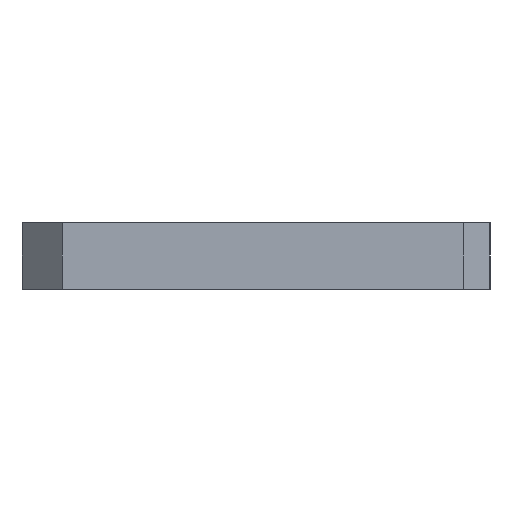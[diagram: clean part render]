
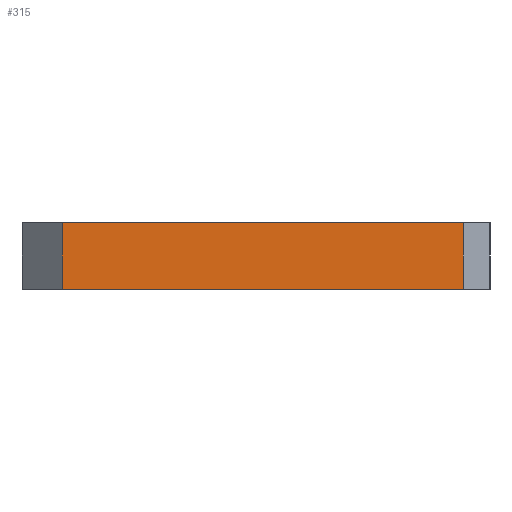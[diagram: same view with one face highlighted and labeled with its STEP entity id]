
A CAD part, left-side view. The second image highlights one B-rep face of the part: STEP entity #315.
In plain terms, the highlighted planar face has unit normal (-1, 0, 0).
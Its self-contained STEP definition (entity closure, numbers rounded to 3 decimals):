
#47=FACE_OUTER_BOUND('',#69,.T.);
#69=EDGE_LOOP('',(#237,#238,#239,#240));
#96=LINE('',#476,#126);
#97=LINE('',#491,#127);
#100=LINE('',#497,#130);
#101=LINE('',#498,#131);
#126=VECTOR('',#382,10.);
#127=VECTOR('',#397,10.);
#130=VECTOR('',#402,10.);
#131=VECTOR('',#403,10.);
#150=VERTEX_POINT('',#462);
#156=VERTEX_POINT('',#474);
#163=VERTEX_POINT('',#490);
#165=VERTEX_POINT('',#496);
#184=EDGE_CURVE('',#156,#150,#96,.T.);
#191=EDGE_CURVE('',#150,#163,#97,.T.);
#194=EDGE_CURVE('',#165,#156,#100,.T.);
#195=EDGE_CURVE('',#165,#163,#101,.T.);
#237=ORIENTED_EDGE('',*,*,#191,.F.);
#238=ORIENTED_EDGE('',*,*,#184,.F.);
#239=ORIENTED_EDGE('',*,*,#194,.F.);
#240=ORIENTED_EDGE('',*,*,#195,.T.);
#305=PLANE('',#351);
#315=ADVANCED_FACE('',(#47),#305,.T.);
#351=AXIS2_PLACEMENT_3D('',#495,#400,#401);
#382=DIRECTION('',(0.,-1.,0.));
#397=DIRECTION('',(0.,0.,-1.));
#400=DIRECTION('center_axis',(-1.,0.,0.));
#401=DIRECTION('ref_axis',(0.,-1.,0.));
#402=DIRECTION('',(0.,0.,1.));
#403=DIRECTION('',(0.,-1.,0.));
#462=CARTESIAN_POINT('',(-175.,7.,5.));
#474=CARTESIAN_POINT('',(-175.,37.,5.));
#476=CARTESIAN_POINT('',(-175.,30.,5.));
#490=CARTESIAN_POINT('',(-175.,7.,0.));
#491=CARTESIAN_POINT('',(-175.,7.,0.));
#495=CARTESIAN_POINT('Origin',(-175.,40.,0.));
#496=CARTESIAN_POINT('',(-175.,37.,0.));
#497=CARTESIAN_POINT('',(-175.,37.,0.));
#498=CARTESIAN_POINT('',(-175.,40.,0.));
